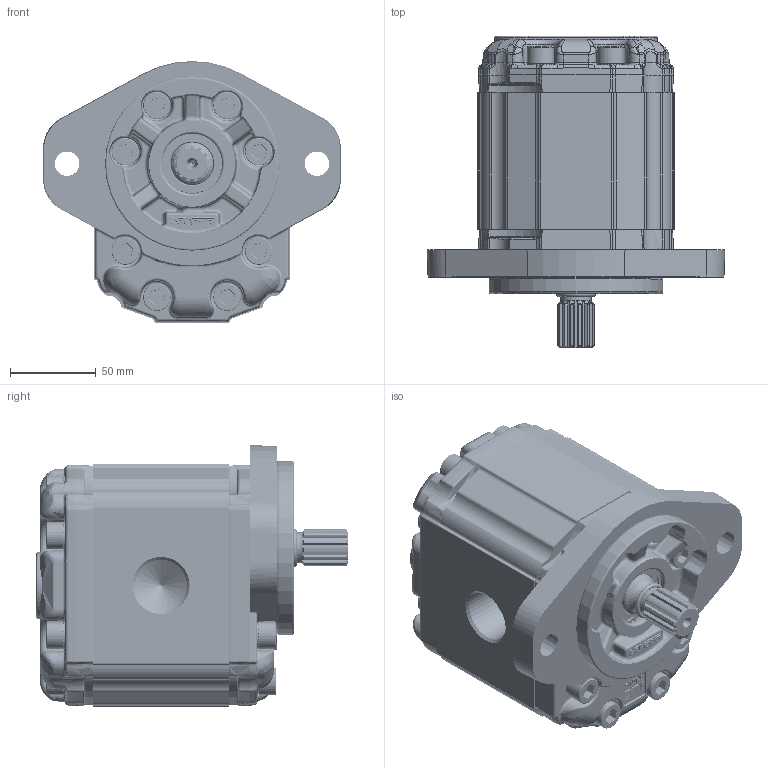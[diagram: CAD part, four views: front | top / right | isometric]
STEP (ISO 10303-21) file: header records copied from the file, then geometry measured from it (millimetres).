
FILE_DESCRIPTION(/* description */ ('Unknown'),/* implementation_level */ '2;1');
FILE_NAME(/* name */ 'X3U7431IEEA',/* time_stamp */ '2026-06-04T19:06:15+02:00',/* author */ ('Unknown'),/* organization */ ('Unknown'),/* preprocessor_version */ 'ST-DEVELOPER v16.7',/* originating_system */ 'Solid Edge',/* authorisation */ 'Unknown');
FILE_SCHEMA (('AP242_MANAGED_MODEL_BASED_3D_ENGINEERING_MIM_LF { 1 0 10303 442 1 1 4 }','AUTOMOTIVE_DESIGN {1 0 10303 214 3 1 1}'));
Products named in the file (5): X3U7431IEEA; X3U31; 3I; X3EEH80; XU331-A
Assembly tree (4 placements, depth 2):
  X3U7431IEEA
    X3U31
    3I
    X3EEH80
    XU331-A
Bounding box: 174 x 182.2 x 153 mm (x, y, z)
Volume: 2007189.4 mm3; surface area: 220033.8 mm2
Topology: 4 solids, 5 shells, 4719 faces, 14359 edges, 8959 vertices
Faces by surface type: cylinder 1846, plane 1270, bspline 1254, torus 177, cone 146, sphere 26
Full cylindrical faces by diameter (mm): 2 x2, 10 x16, 10.35 x30, 10.5 x1, 14.314 x1, 14.315 x1, 15.8 x16, 16 x16, 18 x2, 24.98 x1, 25.5 x1, 26.8 x1, 29.425 x1, 30.291 x2, 30.687 x1, 31 x1, 33.304 x1, 34.7 x1, 35 x2, 35.2 x1, 37 x1, 101.6 x1
Entity records: 348349 total; most frequent: CARTESIAN_POINT 199858, ORIENTED_EDGE 27772, DIRECTION 19803, EDGE_CURVE 13886, VERTEX_POINT 8808, AXIS2_PLACEMENT_3D 7492, FACE_BOUND 5164, EDGE_LOOP 5161
